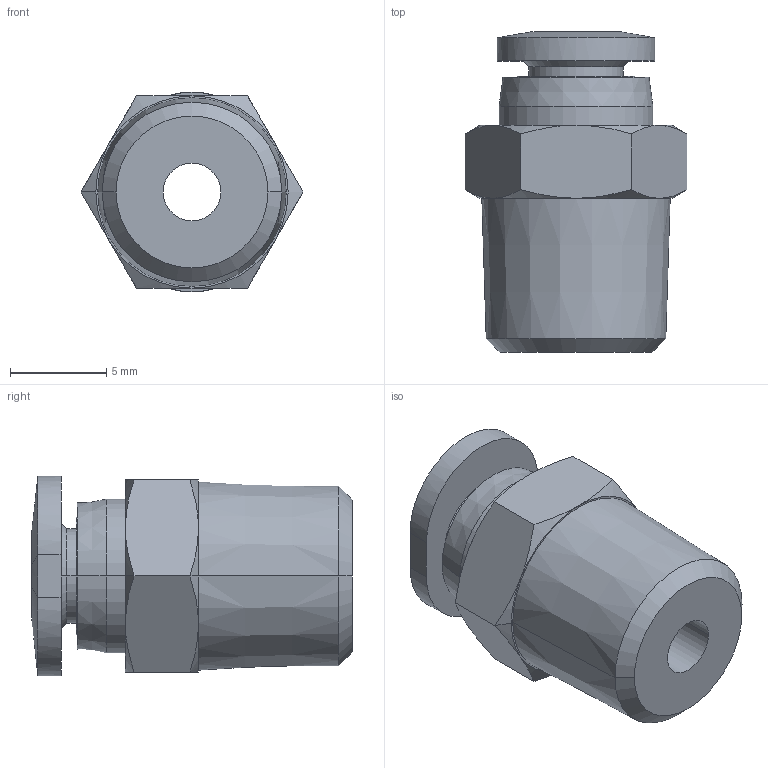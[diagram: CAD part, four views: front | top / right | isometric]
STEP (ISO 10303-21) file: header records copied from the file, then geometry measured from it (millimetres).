
FILE_DESCRIPTION (( 'STEP AP203' ), '1' );
FILE_NAME ('FMH04-01.STEP', '2020-07-07T10:49:20', ( '' ), ( '' ), 'SwSTEP 2.0', 'SolidWorks 2019', '' );
FILE_SCHEMA (( 'CONFIG_CONTROL_DESIGN' ));
Length unit declared in the file: millimetre
Products named in the file (1): FMH04-01
Bounding box: 11.55 x 16.67 x 10.4 mm (x, y, z)
Volume: 933.4 mm3; surface area: 912 mm2
Topology: 1 solids, 1 shells, 56 faces, 120 edges, 72 vertices
Faces by surface type: cone 22, plane 16, cylinder 12, bspline 4, torus 2
Entity records: 1795 total; most frequent: CARTESIAN_POINT 554, DIRECTION 250, ORIENTED_EDGE 240, EDGE_CURVE 120, AXIS2_PLACEMENT_3D 108, VERTEX_POINT 72, EDGE_LOOP 64, FACE_OUTER_BOUND 56
